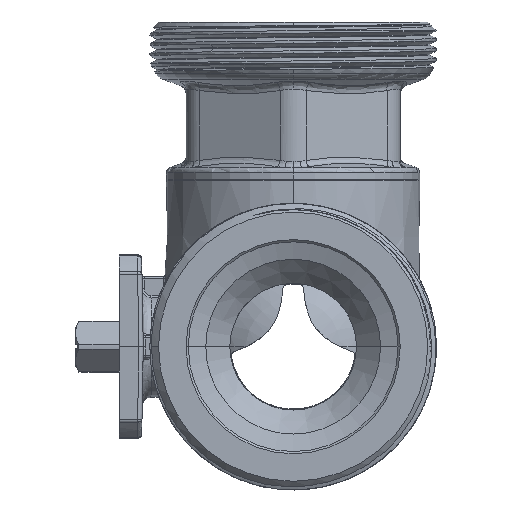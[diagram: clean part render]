
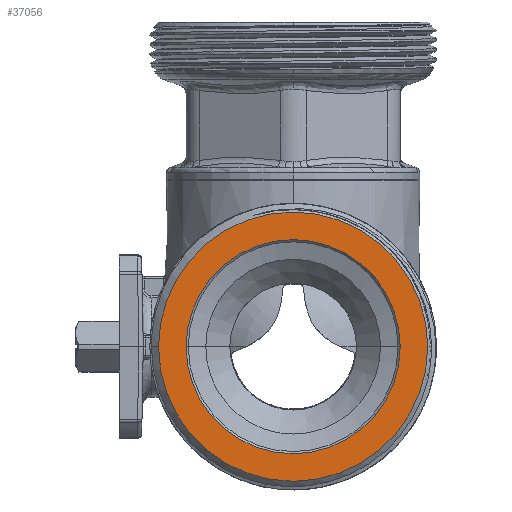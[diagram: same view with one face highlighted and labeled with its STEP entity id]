
A CAD part, left-side view. The second image highlights one B-rep face of the part: STEP entity #37056.
In plain terms, the highlighted planar face has unit normal (-1, 0, 0).
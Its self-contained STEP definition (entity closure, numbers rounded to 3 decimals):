
#10635=CARTESIAN_POINT('',(-63.7,0.,0.));
#10636=DIRECTION('',(1.,0.,0.));
#10637=DIRECTION('',(0.,1.,0.));
#10638=AXIS2_PLACEMENT_3D('',#10635,#10636,#10637);
#10823=CARTESIAN_POINT('',(-63.7,0.,0.));
#10824=DIRECTION('',(-1.,0.,0.));
#10825=DIRECTION('',(0.,1.,0.));
#10826=AXIS2_PLACEMENT_3D('',#10823,#10824,#10825);
#10828=CARTESIAN_POINT('',(-63.7,0.,0.));
#10829=DIRECTION('',(-1.,0.,0.));
#10830=DIRECTION('',(0.,1.,0.));
#10831=AXIS2_PLACEMENT_3D('',#10828,#10829,#10830);
#10833=CARTESIAN_POINT('',(-63.7,0.,0.));
#10834=DIRECTION('',(1.,0.,0.));
#10835=DIRECTION('',(0.,1.,0.));
#10836=AXIS2_PLACEMENT_3D('',#10833,#10834,#10835);
#22976=CARTESIAN_POINT('',(-63.7,30.8,0.));
#22977=CARTESIAN_POINT('',(-63.7,-30.8,0.));
#22978=VERTEX_POINT('',#22976);
#22979=VERTEX_POINT('',#22977);
#22980=CARTESIAN_POINT('',(-63.7,24.5,0.));
#22981=VERTEX_POINT('',#22980);
#22982=CARTESIAN_POINT('',(-63.7,-24.5,0.));
#22983=VERTEX_POINT('',#22982);
#37041=CARTESIAN_POINT('',(-63.7,0.,0.));
#37042=DIRECTION('',(-1.,0.,0.));
#37043=DIRECTION('',(0.,1.,0.));
#37044=AXIS2_PLACEMENT_3D('',#37041,#37042,#37043);
#37045=PLANE('',#37044);
#37046=ORIENTED_EDGE('',*,*,#36721,.T.);
#37047=ORIENTED_EDGE('',*,*,#37035,.F.);
#37048=EDGE_LOOP('',(#37046,#37047));
#37049=FACE_OUTER_BOUND('',#37048,.F.);
#37051=ORIENTED_EDGE('',*,*,#37050,.T.);
#37053=ORIENTED_EDGE('',*,*,#37052,.F.);
#37054=EDGE_LOOP('',(#37051,#37053));
#37055=FACE_BOUND('',#37054,.F.);
#10639=CIRCLE('',#10638,30.8);
#10827=CIRCLE('',#10826,30.8);
#10832=CIRCLE('',#10831,24.5);
#10837=CIRCLE('',#10836,24.5);
#36721=EDGE_CURVE('',#22978,#22979,#10639,.T.);
#37035=EDGE_CURVE('',#22978,#22979,#10827,.T.);
#37050=EDGE_CURVE('',#22981,#22983,#10832,.T.);
#37052=EDGE_CURVE('',#22981,#22983,#10837,.T.);
#37056=ADVANCED_FACE('',(#37049,#37055),#37045,.T.);
